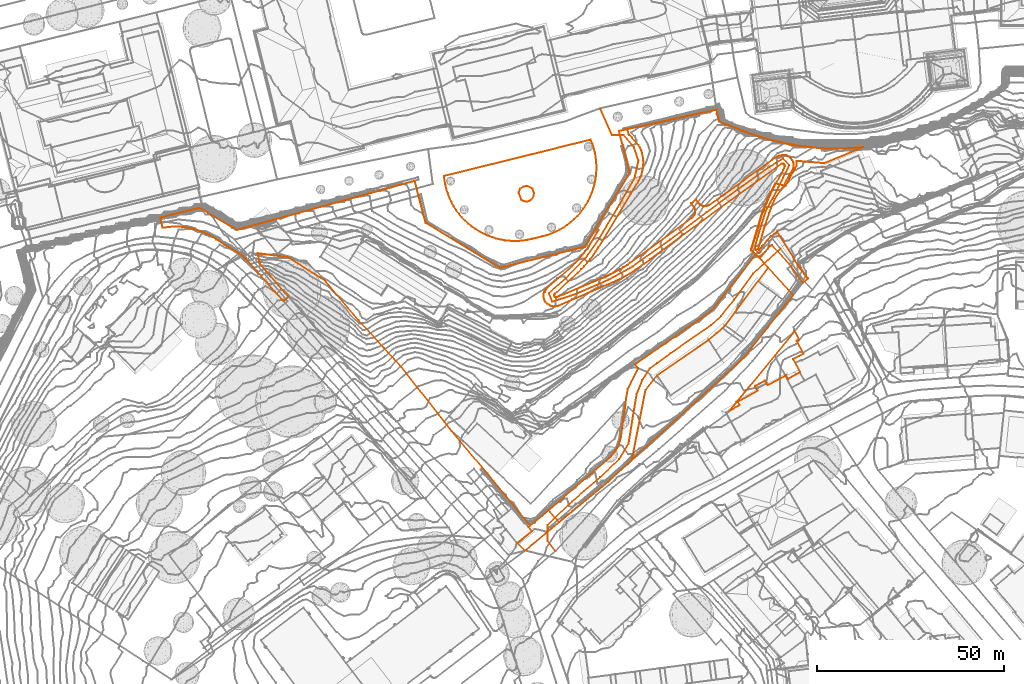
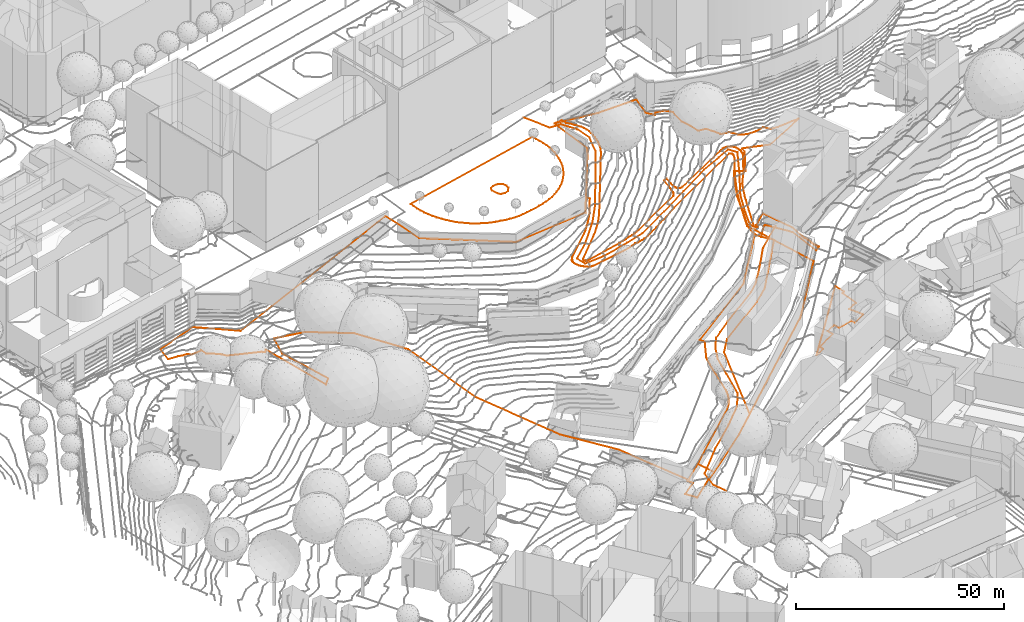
# Not in any storey, part 198 of 494: 8 proxies.
"""IFC2X3 model written with IfcOpenShell, lengths in metres."""

from ifc_helpers import new_model, entity, si_unit, frame, origin_with_axes, place, context, subcontext, project, element, save


model = new_model("IFC2X3")

# Units and contexts
model_context = context("Model", 3, precision=1e-05, world=origin_with_axes())
body_context = subcontext(model_context, "Body", "Model", "MODEL_VIEW")
ifc_project = project(units=[si_unit("AREAUNIT", "SQUARE_METRE"), si_unit("LENGTHUNIT", "METRE")], contexts=[model_context])

# Proxies
proxy_1_placement = place(None, frame((452.5207320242, 301.2667339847, 532.508), z_axis=(0.0, 0.0, 1.0), x_axis=(1.0, 0.0, 0.0)))
element("IfcBuildingElementProxy", 1, at=proxy_1_placement, Name="Road 8", ObjectType="NOTDEFINED", context=body_context, shape_type="GeometricCurveSet", body=[
    entity("IfcGeometricCurveSet", [entity("IfcPolyline", [entity("IfcCartesianPoint", [56.6480000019, 11.1579996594, -16.901]), entity("IfcCartesianPoint", [56.3820000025, 10.835999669, -16.901]), entity("IfcCartesianPoint", [56.2050000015, 10.6209996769, -16.901]), entity("IfcCartesianPoint", [55.4410000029, 11.43299965, -16.839]), entity("IfcCartesianPoint", [55.0990000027, 12.3319996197, -16.685]), entity("IfcCartesianPoint", [56.3300000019, 16.5729994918, -16.191]), entity("IfcCartesianPoint", [58.0030000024, 21.8799993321, -14.758]), entity("IfcCartesianPoint", [61.3800000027, 28.1939991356, -13.506]), entity("IfcCartesianPoint", [64.3170000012, 34.214998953, -12.061]), entity("IfcCartesianPoint", [62.7020000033, 35.9769989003, -11.76]), entity("IfcCartesianPoint", [58.5899999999, 33.4799989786, -11.19]), entity("IfcCartesianPoint", [51.8360000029, 28.6349991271, -9.361]), entity("IfcCartesianPoint", [42.143000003, 21.5869993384, -7.956]), entity("IfcCartesianPoint", [32.4520000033, 14.2439995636, -6.127]), entity("IfcCartesianPoint", [22.3200000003, 7.0489997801, -4.609]), entity("IfcCartesianPoint", [16.006000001, 3.5239998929, -3.102]), entity("IfcCartesianPoint", [7.1950000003, -0.2929999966, -1.635]), entity("IfcCartesianPoint", [0.881000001, -2.3499999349, -0.346]), entity("IfcCartesianPoint", [0.0, 0.0, 0.0]), entity("IfcCartesianPoint", [4.5520000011, 3.9649998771, 0.365]), entity("IfcCartesianPoint", [9.6910000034, 9.2519997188, 1.869]), entity("IfcCartesianPoint", [13.3619999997, 14.3899995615, 2.299]), entity("IfcCartesianPoint", [18.2080000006, 22.6139993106, 3.514]), entity("IfcCartesianPoint", [22.9070000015, 30.689999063, 4.88]), entity("IfcCartesianPoint", [23.9350000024, 35.3889989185, 5.664]), entity("IfcCartesianPoint", [22.7609999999, 39.0599988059, 6.257]), entity("IfcCartesianPoint", [19.949000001, 42.2949987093, 6.786]), entity("IfcCartesianPoint", [16.8800000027, 42.2949987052, 6.891]), entity("IfcCartesianPoint", [13.682, 49.3899984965, 6.685])])]),
])
proxy_2_placement = place(None, frame((452.1207320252, 234.928736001, 506.386), z_axis=(0.0, 0.0, 1.0), x_axis=(1.0, 0.0, 0.0)))
element("IfcBuildingElementProxy", 2, at=proxy_2_placement, Name="Road 170", ObjectType="NOTDEFINED", context=body_context, shape_type="GeometricCurveSet", body=[
    entity("IfcGeometricCurveSet", [entity("IfcPolyline", [entity("IfcCartesianPoint", [2.1620000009, -2.6789999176, -0.872]), entity("IfcCartesianPoint", [0.0, 0.0, 0.0]), entity("IfcCartesianPoint", [5e-10, 4.2339998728, 0.869]), entity("IfcCartesianPoint", [6.5670000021, 10.5369996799, 2.002]), entity("IfcCartesianPoint", [14.0560000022, 16.9979994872, 2.537]), entity("IfcCartesianPoint", [19.1959999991, 21.8449993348, 3.272]), entity("IfcCartesianPoint", [21.6920000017, 25.9559992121, 3.733]), entity("IfcCartesianPoint", [22.8669999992, 33.2979989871, 4.472]), entity("IfcCartesianPoint", [23.895, 39.3179988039, 4.96]), entity("IfcCartesianPoint", [25.3759999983, 43.0429986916, 5.415]), entity("IfcCartesianPoint", [27.3610000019, 46.0859985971, 5.732]), entity("IfcCartesianPoint", [29.3220000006, 47.5349985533, 5.834]), entity("IfcCartesianPoint", [32.9169999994, 50.1869984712, 6.023]), entity("IfcCartesianPoint", [43.7650000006, 57.726998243, 6.361]), entity("IfcCartesianPoint", [46.4109999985, 60.1089981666, 6.445]), entity("IfcCartesianPoint", [49.9820000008, 64.6059980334, 6.578]), entity("IfcCartesianPoint", [55.0340000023, 71.5399978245, 6.916]), entity("IfcCartesianPoint", [62.3460000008, 78.2149976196, 6.709])])]),
])
proxy_3_placement = place(None, frame((424.4467320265, 332.5677160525, 539.4183781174), z_axis=(0.0, 0.0, 1.0), x_axis=(1.0, 0.0, 0.0)))
element("IfcBuildingElementProxy", 3, at=proxy_3_placement, Name="Roads Outline 57", ObjectType="NOTDEFINED", context=body_context, shape_type="GeometricCurveSet", body=[
    entity("IfcGeometricCurveSet", [entity("IfcPolyline", [entity("IfcCartesianPoint", [0.0, 0.0, 0.0]), entity("IfcCartesianPoint", [39.2740000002, 9.713, -0.0045597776]), entity("IfcCartesianPoint", [39.7150000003, 8.5789999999, -0.0435130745]), entity("IfcCartesianPoint", [40.0820000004, 7.4199999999, -0.0755284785]), entity("IfcCartesianPoint", [40.375, 6.2389999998, -0.0744888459]), entity("IfcCartesianPoint", [40.591, 5.0419999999, -0.0718479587]), entity("IfcCartesianPoint", [40.73, 3.8339999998, 0.0097946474]), entity("IfcCartesianPoint", [40.7920000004, 2.6189999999, 0.0466417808]), entity("IfcCartesianPoint", [40.7750000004, 1.4029999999, 0.022346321]), entity("IfcCartesianPoint", [40.6810000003, 0.1899999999, -0.0875434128]), entity("IfcCartesianPoint", [40.5090000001, -1.0140000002, -0.1010078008]), entity("IfcCartesianPoint", [40.2600000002, -2.2050000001, -0.0472795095]), entity("IfcCartesianPoint", [39.9360000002, -3.3770000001, -0.0518511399]), entity("IfcCartesianPoint", [39.537, -4.5260000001, -0.0579178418]), entity("IfcCartesianPoint", [39.0650000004, -5.6470000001, -0.0194248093]), entity("IfcCartesianPoint", [38.523, -6.736, -0.0211341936]), entity("IfcCartesianPoint", [37.912, -7.7880000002, -0.0218287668]), entity("IfcCartesianPoint", [37.2350000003, -8.7980000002, -0.0328870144]), entity("IfcCartesianPoint", [36.4940000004, -9.763, -0.0262968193]), entity("IfcCartesianPoint", [35.6940000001, -10.679, -0.0425654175]), entity("IfcCartesianPoint", [34.8360000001, -11.5410000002, -0.0356918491]), entity("IfcCartesianPoint", [33.9250000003, -12.3470000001, -0.0149271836]), entity("IfcCartesianPoint", [32.9640000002, -13.0930000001, 0.0112943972]), entity("IfcCartesianPoint", [31.9570000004, -13.7750000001, 0.0247038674]), entity("IfcCartesianPoint", [30.909, -14.392, -0.0612446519]), entity("IfcCartesianPoint", [29.8230000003, -14.9400000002, -0.0017270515]), entity("IfcCartesianPoint", [28.7040000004, -15.4180000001, 0.0425044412]), entity("IfcCartesianPoint", [27.5580000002, -15.8230000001, 0.0329771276]), entity("IfcCartesianPoint", [26.3870000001, -16.1540000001, 0.0191743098]), entity("IfcCartesianPoint", [23.6660000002, -16.8150000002, 0.0214867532]), entity("IfcCartesianPoint", [22.4720000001, -17.0800000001, 0.0213547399]), entity("IfcCartesianPoint", [21.2630000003, -17.267, 0.0218737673]), entity("IfcCartesianPoint", [20.0450000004, -17.3770000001, -0.0107805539]), entity("IfcCartesianPoint", [18.8230000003, -17.4080000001, -0.0008671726]), entity("IfcCartesianPoint", [17.6010000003, -17.3600000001, 0.0042676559]), entity("IfcCartesianPoint", [16.3840000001, -17.2340000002, 0.0068673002]), entity("IfcCartesianPoint", [15.1780000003, -17.03, 0.0396822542]), entity("IfcCartesianPoint", [13.9880000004, -16.7490000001, 0.0047734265]), entity("IfcCartesianPoint", [12.818, -16.392, -0.0321487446]), entity("IfcCartesianPoint", [11.6740000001, -15.9610000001, -0.0428608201]), entity("IfcCartesianPoint", [10.5600000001, -15.4570000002, -0.0296490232]), entity("IfcCartesianPoint", [9.48, -14.882, -0.036921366]), entity("IfcCartesianPoint", [8.4400000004, -14.2390000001, -0.0601979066]), entity("IfcCartesianPoint", [7.443, -13.5310000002, -0.0514258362]), entity("IfcCartesianPoint", [6.4930000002, -12.76, -0.0228515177]), entity("IfcCartesianPoint", [5.5950000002, -11.9300000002, -0.0724719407]), entity("IfcCartesianPoint", [4.753, -11.0430000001, 0.0186784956]), entity("IfcCartesianPoint", [3.969, -10.105, 0.01955624]), entity("IfcCartesianPoint", [3.247, -9.1170000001, 0.0105898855]), entity("IfcCartesianPoint", [2.5900000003, -8.0860000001, 0.0273971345]), entity("IfcCartesianPoint", [2.0, -7.0140000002, -0.0117850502]), entity("IfcCartesianPoint", [1.4810000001, -5.9070000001, 0.0528604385]), entity("IfcCartesianPoint", [1.034, -4.7690000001, 0.0221340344]), entity("IfcCartesianPoint", [0.6610000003, -3.6040000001, 0.0180715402]), entity("IfcCartesianPoint", [0.3630000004, -2.4180000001, 0.0151391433]), entity("IfcCartesianPoint", [0.1430000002, -1.2150000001, 0.0081519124]), entity("IfcCartesianPoint", [0.0, 0.0, 0.0])])]),
])
proxy_4_placement = place(None, frame((444.0047320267, 234.3987160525, 506.9351353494), z_axis=(0.0, 0.0, 1.0), x_axis=(1.0, 0.0, 0.0)))
element("IfcBuildingElementProxy", 4, at=proxy_4_placement, Name="Roads Outline 93", ObjectType="NOTDEFINED", context=body_context, shape_type="GeometricCurveSet", body=[
    entity("IfcGeometricCurveSet", [entity("IfcPolyline", [entity("IfcCartesianPoint", [0.0, 0.0, 0.0]), entity("IfcCartesianPoint", [3.9550000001, 3.1629999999, -0.0307581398]), entity("IfcCartesianPoint", [3.0490000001, 4.26, 0.1611337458]), entity("IfcCartesianPoint", [3.5049999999, 4.6039999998, 0.1047028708]), entity("IfcCartesianPoint", [8.4550000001, 8.764, 0.5719090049]), entity("IfcCartesianPoint", [9.1850000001, 9.3899999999, 0.5929481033]), entity("IfcCartesianPoint", [24.5980000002, 22.6259999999, 2.652626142]), entity("IfcCartesianPoint", [25.21, 23.2509999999, 2.7109248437]), entity("IfcCartesianPoint", [25.77, 23.9239999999, 2.775616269]), entity("IfcCartesianPoint", [26.2719999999, 24.6409999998, 2.8605460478]), entity("IfcCartesianPoint", [26.7140000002, 25.3959999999, 2.9397775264]), entity("IfcCartesianPoint", [27.0929999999, 26.1849999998, 2.9962596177]), entity("IfcCartesianPoint", [27.406, 27.0019999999, 3.1508445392]), entity("IfcCartesianPoint", [27.6510000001, 27.8419999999, 3.3031284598]), entity("IfcCartesianPoint", [27.827, 28.6989999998, 3.3694165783]), entity("IfcCartesianPoint", [29.0430000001, 37.602, 4.2091110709]), entity("IfcCartesianPoint", [29.1910000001, 38.689, 4.3555372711]), entity("IfcCartesianPoint", [29.591, 41.1229999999, 4.5537559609]), entity("IfcCartesianPoint", [32.3790000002, 46.74, 5.0266992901]), entity("IfcCartesianPoint", [31.557, 47.7709999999, 5.1555257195]), entity("IfcCartesianPoint", [51.9339999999, 61.9589999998, 5.9585981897]), entity("IfcCartesianPoint", [63.827, 77.1639999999, 7.1703084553]), entity("IfcCartesianPoint", [64.3599999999, 76.7239999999, 6.7948441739]), entity("IfcCartesianPoint", [65.0150000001, 76.1819999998, 6.534303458]), entity("IfcCartesianPoint", [67.1710000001, 73.666, 6.4116579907]), entity("IfcCartesianPoint", [64.4270000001, 69.9669999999, 6.2782489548]), entity("IfcCartesianPoint", [55.4169999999, 57.8169999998, 5.9085776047]), entity("IfcCartesianPoint", [53.3509999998, 56.071, 5.675805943]), entity("IfcCartesianPoint", [51.2880000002, 54.328, 5.7067057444]), entity("IfcCartesianPoint", [51.1970000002, 54.2659999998, 5.70902126]), entity("IfcCartesianPoint", [37.4410000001, 44.8089999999, 5.1718862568]), entity("IfcCartesianPoint", [34.3509999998, 40.8459999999, 4.8868573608]), entity("IfcCartesianPoint", [30.7000000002, 22.1599999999, -0.6636134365]), entity("IfcCartesianPoint", [24.2820000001, 16.2949999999, -0.9184241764]), entity("IfcCartesianPoint", [11.9890000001, 6.1769999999, -0.8244341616]), entity("IfcCartesianPoint", [11.1839999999, 5.514, -0.8392498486]), entity("IfcCartesianPoint", [7.9950000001, 2.8429999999, -0.3437232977]), entity("IfcCartesianPoint", [2.0959999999, -2.0960000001, -0.4512191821]), entity("IfcCartesianPoint", [0.0, 0.0, 0.0])])]),
])
proxy_5_placement = place(None, frame((500.8287320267, 269.7407160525, 506.3617243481), z_axis=(0.0, 0.0, 1.0), x_axis=(1.0, 0.0, 0.0)))
element("IfcBuildingElementProxy", 5, at=proxy_5_placement, Name="Roads Outline 127", ObjectType="NOTDEFINED", context=body_context, shape_type="GeometricCurveSet", body=[
    entity("IfcGeometricCurveSet", [entity("IfcPolyline", [entity("IfcCartesianPoint", [0.0, 0.0, 0.0]), entity("IfcCartesianPoint", [12.1430000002, 14.797, 0.6289548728]), entity("IfcCartesianPoint", [17.4890000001, 21.3459999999, 1.2070523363]), entity("IfcCartesianPoint", [18.682, 19.1029999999, 0.4858708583]), entity("IfcCartesianPoint", [17.9840000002, 18.7319999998, 0.6013398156]), entity("IfcCartesianPoint", [19.8160000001, 15.2879999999, -0.8596442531]), entity("IfcCartesianPoint", [18.6770000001, 14.682, -0.7444421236]), entity("IfcCartesianPoint", [17.0839999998, 13.835, -0.8329642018]), entity("IfcCartesianPoint", [18.9449999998, 10.334, -0.926820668]), entity("IfcCartesianPoint", [15.6269999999, 8.517, -1.0169031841]), entity("IfcCartesianPoint", [15.1239999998, 9.4839999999, -0.9169735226]), entity("IfcCartesianPoint", [14.9559999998, 9.3929999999, -0.8786977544]), entity("IfcCartesianPoint", [10.2140000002, 6.824, 0.3817597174]), entity("IfcCartesianPoint", [9.5249999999, 8.074, 0.6364313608]), entity("IfcCartesianPoint", [6.835, 6.5989999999, 0.6259467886]), entity("IfcCartesianPoint", [7.551, 5.3399999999, 0.3304719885]), entity("IfcCartesianPoint", [2.2229999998, 2.4099999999, 0.1652694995]), entity("IfcCartesianPoint", [2.7310000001, 1.4919999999, -0.01792651]), entity("IfcCartesianPoint", [0.0, 0.0, 0.0])])]),
])
proxy_6_placement = place(None, frame((451.0627320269, 300.6077160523, 532.344853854), z_axis=(0.0, 0.0, 1.0), x_axis=(1.0, 0.0, 0.0)))
element("IfcBuildingElementProxy", 6, at=proxy_6_placement, Name="Roads Outline 137", ObjectType="NOTDEFINED", context=body_context, shape_type="GeometricCurveSet", body=[
    entity("IfcGeometricCurveSet", [entity("IfcPolyline", [entity("IfcCartesianPoint", [0.1579999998, 0.952, 0.0092594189]), entity("IfcCartesianPoint", [0.372, 0.8500000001, 0.0034604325]), entity("IfcCartesianPoint", [0.4589999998, 1.182, 0.0361574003]), entity("IfcCartesianPoint", [0.5979999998, 1.496, 0.0884358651]), entity("IfcCartesianPoint", [0.787, 1.7830000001, 0.1087660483]), entity("IfcCartesianPoint", [1.02, 2.0360000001, 0.091669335]), entity("IfcCartesianPoint", [7.4679999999, 7.6540000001, 1.1023663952]), entity("IfcCartesianPoint", [8.426, 8.5990000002, 1.3194146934]), entity("IfcCartesianPoint", [9.3449999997, 9.5820000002, 1.4940632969]), entity("IfcCartesianPoint", [10.2229999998, 10.601, 1.7030825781]), entity("IfcCartesianPoint", [11.1859999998, 11.8220000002, 1.9282145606]), entity("IfcCartesianPoint", [12.091, 13.0870000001, 2.168034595]), entity("IfcCartesianPoint", [14.7219999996, 17.4060000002, 2.9472054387]), entity("IfcCartesianPoint", [14.0099999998, 18.02, 3.3245718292]), entity("IfcCartesianPoint", [23.0419999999, 32.841, 5.3881047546]), entity("IfcCartesianPoint", [20.2219999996, 44.0120000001, 6.9616994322]), entity("IfcCartesianPoint", [22.4409999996, 44.4910000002, 6.8963017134]), entity("IfcCartesianPoint", [22.8599999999, 42.9360000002, 6.8672930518]), entity("IfcCartesianPoint", [23.6519999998, 42.226, 6.7490785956]), entity("IfcCartesianPoint", [24.392, 41.4620000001, 6.6382654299]), entity("IfcCartesianPoint", [24.9139999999, 40.8520000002, 6.5381969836]), entity("IfcCartesianPoint", [25.4029999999, 40.2140000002, 6.468987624]), entity("IfcCartesianPoint", [25.8569999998, 39.5520000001, 6.3707184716]), entity("IfcCartesianPoint", [26.1509999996, 38.8260000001, 6.2912083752]), entity("IfcCartesianPoint", [26.3869999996, 38.0800000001, 6.1588097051]), entity("IfcCartesianPoint", [26.5619999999, 37.317, 5.9569280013]), entity("IfcCartesianPoint", [26.676, 36.5420000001, 5.8046309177]), entity("IfcCartesianPoint", [26.7279999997, 35.7610000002, 5.6593209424]), entity("IfcCartesianPoint", [26.7119999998, 34.895, 5.4525778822]), entity("IfcCartesianPoint", [26.6189999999, 34.0330000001, 5.2914185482]), entity("IfcCartesianPoint", [26.4509999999, 33.1830000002, 5.1600183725]), entity("IfcCartesianPoint", [26.2079999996, 32.351, 5.0312722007]), entity("IfcCartesianPoint", [25.892, 31.544, 4.8806323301]), entity("IfcCartesianPoint", [25.5059999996, 30.7680000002, 4.757666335]), entity("IfcCartesianPoint", [23.3159999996, 27.0920000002, 4.2763765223]), entity("IfcCartesianPoint", [14.6239999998, 12.7250000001, 2.0283122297]), entity("IfcCartesianPoint", [13.9579999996, 11.682, 1.8244098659]), entity("IfcCartesianPoint", [13.2519999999, 10.6670000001, 1.6702525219]), entity("IfcCartesianPoint", [12.5049999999, 9.6800000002, 1.5507825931]), entity("IfcCartesianPoint", [11.7199999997, 8.7240000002, 1.4173134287]), entity("IfcCartesianPoint", [10.9269999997, 7.8320000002, 1.2438214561]), entity("IfcCartesianPoint", [10.1009999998, 6.9720000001, 0.9983842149]), entity("IfcCartesianPoint", [9.2419999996, 6.1430000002, 0.8824686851]), entity("IfcCartesianPoint", [3.074, 0.4550000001, -0.2127317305]), entity("IfcCartesianPoint", [2.9479999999, 0.3010000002, -0.2635257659]), entity("IfcCartesianPoint", [2.8829999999, 0.1130000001, -0.3284473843]), entity("IfcCartesianPoint", [2.8879999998, -0.0859999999, -0.3524937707]), entity("IfcCartesianPoint", [2.9619999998, -0.2709999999, -0.3714012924]), entity("IfcCartesianPoint", [3.0779999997, -0.4029999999, -0.3970207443]), entity("IfcCartesianPoint", [3.2289999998, -0.4929999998, -0.4297189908]), entity("IfcCartesianPoint", [3.3999999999, -0.5319999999, -0.4657297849]), entity("IfcCartesianPoint", [3.5749999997, -0.5159999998, -0.5021135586]), entity("IfcCartesianPoint", [15.5099999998, 4.5660000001, -2.5362907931]), entity("IfcCartesianPoint", [16.7389999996, 5.121, -2.7099482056]), entity("IfcCartesianPoint", [17.9569999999, 5.6980000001, -2.9481187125]), entity("IfcCartesianPoint", [19.2259999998, 6.3280000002, -3.0484743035]), entity("IfcCartesianPoint", [20.4819999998, 6.983, -3.4477442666]), entity("IfcCartesianPoint", [21.4139999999, 7.5320000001, -3.5923197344]), entity("IfcCartesianPoint", [22.3269999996, 8.1120000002, -3.7638247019]), entity("IfcCartesianPoint", [23.219, 8.7240000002, -3.9382991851]), entity("IfcCartesianPoint", [28.1339999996, 12.273, -4.7542871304]), entity("IfcCartesianPoint", [39.7409999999, 20.807, -7.0947559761]), entity("IfcCartesianPoint", [40.0049999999, 21.0320000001, -7.1601095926]), entity("IfcCartesianPoint", [40.2279999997, 21.297, -7.1746073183]), entity("IfcCartesianPoint", [40.4029999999, 21.5960000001, -7.1907662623]), entity("IfcCartesianPoint", [40.5279999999, 21.929, -7.2188201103]), entity("IfcCartesianPoint", [40.5949999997, 22.2790000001, -7.1389866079]), entity("IfcCartesianPoint", [40.5999999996, 22.6340000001, -6.9760760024]), entity("IfcCartesianPoint", [40.5439999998, 22.986, -6.7711049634]), entity("IfcCartesianPoint", [40.429, 23.3220000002, -6.4623985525]), entity("IfcCartesianPoint", [40.2569999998, 23.6340000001, -6.1049176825]), entity("IfcCartesianPoint", [39.537, 24.6470000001, -4.810469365]), entity("IfcCartesianPoint", [40.8329999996, 25.6700000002, -5.2587416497]), entity("IfcCartesianPoint", [41.483, 24.6900000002, -6.3821222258]), entity("IfcCartesianPoint", [41.7409999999, 24.412, -6.7583479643]), entity("IfcCartesianPoint", [42.0439999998, 24.1830000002, -7.1274100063]), entity("IfcCartesianPoint", [42.3819999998, 24.01, -7.4354290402]), entity("IfcCartesianPoint", [42.7449999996, 23.898, -7.6614107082]), entity("IfcCartesianPoint", [43.1399999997, 23.8500000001, -7.86111544]), entity("IfcCartesianPoint", [43.5359999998, 23.8740000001, -7.8903885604]), entity("IfcCartesianPoint", [43.9219999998, 23.9700000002, -7.9285490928]), entity("IfcCartesianPoint", [44.284, 24.1340000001, -7.9639429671]), entity("IfcCartesianPoint", [62.142, 36.9330000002, -11.476687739]), entity("IfcCartesianPoint", [62.585, 37.1630000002, -11.4604175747]), entity("IfcCartesianPoint", [63.048, 37.3520000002, -11.3922880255]), entity("IfcCartesianPoint", [63.415, 37.469, -11.3903862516]), entity("IfcCartesianPoint", [63.7889999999, 37.5580000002, -11.4138038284]), entity("IfcCartesianPoint", [64.159, 37.5800000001, -11.4669125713]), entity("IfcCartesianPoint", [64.5279999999, 37.5520000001, -11.4737450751]), entity("IfcCartesianPoint", [64.8909999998, 37.4740000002, -11.504032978]), entity("IfcCartesianPoint", [65.2389999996, 37.3470000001, -11.5395594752]), entity("IfcCartesianPoint", [65.6359999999, 37.1440000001, -11.5742211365]), entity("IfcCartesianPoint", [65.9979999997, 36.8830000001, -11.6238240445]), entity("IfcCartesianPoint", [66.3159999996, 36.571, -11.7354756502]), entity("IfcCartesianPoint", [66.5829999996, 36.2140000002, -11.8907107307]), entity("IfcCartesianPoint", [66.7929999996, 35.821, -11.9994817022]), entity("IfcCartesianPoint", [66.8659999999, 35.4810000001, -12.0559041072]), entity("IfcCartesianPoint", [66.9029999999, 35.135, -12.1130416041]), entity("IfcCartesianPoint", [66.9039999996, 34.787, -12.1826063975]), entity("IfcCartesianPoint", [66.861, 34.3820000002, -12.2584218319]), entity("IfcCartesianPoint", [66.77, 33.986, -12.3307330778]), entity("IfcCartesianPoint", [64.1829999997, 29.2140000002, -13.4960921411]), entity("IfcCartesianPoint", [61.8599999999, 25.7620000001, -14.1610872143]), entity("IfcCartesianPoint", [61.3649999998, 24.5900000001, -14.4603045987]), entity("IfcCartesianPoint", [60.8969999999, 23.4080000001, -14.6806566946]), entity("IfcCartesianPoint", [60.3989999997, 22.0350000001, -15.029632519]), entity("IfcCartesianPoint", [59.9219999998, 20.655, -15.3153385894]), entity("IfcCartesianPoint", [59.4139999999, 19.111, -15.5248313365]), entity("IfcCartesianPoint", [58.9309999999, 17.5590000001, -15.8327025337]), entity("IfcCartesianPoint", [57.503, 12.6740000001, -17.0381658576]), entity("IfcCartesianPoint", [57.4499999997, 12.388, -17.131150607]), entity("IfcCartesianPoint", [57.6979999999, 12.1660000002, -17.4277969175]), entity("IfcCartesianPoint", [58.4349999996, 13.1330000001, -17.5245292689]), entity("IfcCartesianPoint", [59.8059999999, 14.7110000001, -18.231701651]), entity("IfcCartesianPoint", [60.8569999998, 15.834, -18.3371087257]), entity("IfcCartesianPoint", [62.5329999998, 17.0330000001, -17.8849381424]), entity("IfcCartesianPoint", [66.8459999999, 10.2950000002, -19.5070420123]), entity("IfcCartesianPoint", [67.2599999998, 9.2520000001, -19.924798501]), entity("IfcCartesianPoint", [68.088, 8.0680000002, -20.9084779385]), entity("IfcCartesianPoint", [68.2779999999, 7.814, -21.1120105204]), entity("IfcCartesianPoint", [68.4729999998, 7.5550000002, -21.2787051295]), entity("IfcCartesianPoint", [68.6529999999, 7.3160000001, -21.3796090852]), entity("IfcCartesianPoint", [68.8589999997, 7.04, -21.4468309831]), entity("IfcCartesianPoint", [69.0409999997, 6.7980000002, -21.6017211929]), entity("IfcCartesianPoint", [69.21, 6.5720000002, -21.7433093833]), entity("IfcCartesianPoint", [69.412, 6.3030000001, -21.9434452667]), entity("IfcCartesianPoint", [69.591, 6.064, -22.1224231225]), entity("IfcCartesianPoint", [69.77, 5.827, -22.3490224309]), entity("IfcCartesianPoint", [69.9569999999, 5.5760000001, -22.5317040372]), entity("IfcCartesianPoint", [70.1289999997, 5.348, -22.6438578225]), entity("IfcCartesianPoint", [70.3169999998, 5.0970000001, -22.6752236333]), entity("IfcCartesianPoint", [70.5289999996, 4.814, -22.7817460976]), entity("IfcCartesianPoint", [70.7039999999, 4.581, -22.8592903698]), entity("IfcCartesianPoint", [70.8079999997, 4.4430000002, -22.89741996]), entity("IfcCartesianPoint", [69.4479999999, 3.4620000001, -22.9908939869]), entity("IfcCartesianPoint", [65.8159999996, 8.3380000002, -19.2799242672]), entity("IfcCartesianPoint", [61.148, 13.5140000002, -18.677630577]), entity("IfcCartesianPoint", [60.8589999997, 13.3690000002, -18.6744953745]), entity("IfcCartesianPoint", [60.605, 13.2250000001, -18.6814804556]), entity("IfcCartesianPoint", [60.4939999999, 13.1300000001, -18.6927562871]), entity("IfcCartesianPoint", [60.395, 13.023, -18.7045519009]), entity("IfcCartesianPoint", [58.9129999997, 11.1870000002, -18.7217713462]), entity("IfcCartesianPoint", [57.9569999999, 9.973, -18.8754150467]), entity("IfcCartesianPoint", [57.3019999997, 10.5150000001, -18.6148743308]), entity("IfcCartesianPoint", [56.7689999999, 10.9550000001, -18.2394100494]), entity("IfcCartesianPoint", [56.4609999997, 11.2100000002, -17.9043747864]), entity("IfcCartesianPoint", [55.5829999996, 11.976, -16.445857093]), entity("IfcCartesianPoint", [57.2519999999, 17.4990000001, -15.656994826]), entity("IfcCartesianPoint", [57.642, 18.9530000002, -15.3674454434]), entity("IfcCartesianPoint", [58.0759999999, 20.3940000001, -15.0895398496]), entity("IfcCartesianPoint", [58.554, 21.821, -14.8071615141]), entity("IfcCartesianPoint", [59.165, 23.4210000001, -14.5098932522]), entity("IfcCartesianPoint", [59.8199999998, 25.003, -14.1905812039]), entity("IfcCartesianPoint", [60.5159999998, 26.5680000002, -13.8237879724]), entity("IfcCartesianPoint", [61.412, 28.4300000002, -13.4085170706]), entity("IfcCartesianPoint", [62.3659999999, 30.263, -13.0186559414]), entity("IfcCartesianPoint", [64.1779999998, 33.5390000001, -12.2611845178]), entity("IfcCartesianPoint", [64.5859999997, 34.5700000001, -12.0646644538]), entity("IfcCartesianPoint", [64.5549999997, 34.74, -12.030075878]), entity("IfcCartesianPoint", [64.486, 34.898, -11.993752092]), entity("IfcCartesianPoint", [64.3819999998, 35.0360000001, -11.9556743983]), entity("IfcCartesianPoint", [64.2349999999, 35.1570000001, -11.9236795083]), entity("IfcCartesianPoint", [64.0629999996, 35.2370000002, -11.8855597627]), entity("IfcCartesianPoint", [63.8759999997, 35.2720000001, -11.8266457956]), entity("IfcCartesianPoint", [63.6859999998, 35.2580000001, -11.7729379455]), entity("IfcCartesianPoint", [37.591, 16.4040000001, -6.997098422]), entity("IfcCartesianPoint", [28.5819999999, 9.6590000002, -5.7523858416]), entity("IfcCartesianPoint", [26.7879999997, 8.3600000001, -5.2933233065]), entity("IfcCartesianPoint", [24.9679999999, 7.0970000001, -5.2616925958]), entity("IfcCartesianPoint", [23.1239999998, 5.8700000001, -4.6994669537]), entity("IfcCartesianPoint", [22.2609999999, 5.334, -4.4619918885]), entity("IfcCartesianPoint", [21.3729999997, 4.8390000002, -4.1773491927]), entity("IfcCartesianPoint", [20.4619999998, 4.3870000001, -4.1052361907]), entity("IfcCartesianPoint", [19.531, 3.9790000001, -3.6935804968]), entity("IfcCartesianPoint", [17.1679999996, 2.9100000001, -3.566628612]), entity("IfcCartesianPoint", [4.0929999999, -2.7359999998, -0.7829579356]), entity("IfcCartesianPoint", [3.6319999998, -2.8839999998, -0.7093285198]), entity("IfcCartesianPoint", [3.1539999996, -2.9549999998, -0.6232187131]), entity("IfcCartesianPoint", [2.6699999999, -2.9469999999, -0.4949473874]), entity("IfcCartesianPoint", [2.1939999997, -2.8599999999, -0.3571021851]), entity("IfcCartesianPoint", [1.7379999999, -2.6969999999, -0.2378095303]), entity("IfcCartesianPoint", [1.3149999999, -2.4619999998, -0.152793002]), entity("IfcCartesianPoint", [0.9359999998, -2.1609999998, -0.090757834]), entity("IfcCartesianPoint", [0.611, -1.8019999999, -0.0295948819]), entity("IfcCartesianPoint", [0.3489999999, -1.3959999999, -0.0012709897]), entity("IfcCartesianPoint", [0.1569999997, -0.9509999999, -0.0190975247]), entity("IfcCartesianPoint", [0.04, -0.4819999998, -0.0065431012]), entity("IfcCartesianPoint", [0.0, 0.0, 0.0]), entity("IfcCartesianPoint", [0.04, 0.483, 0.0078540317]), entity("IfcCartesianPoint", [0.1579999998, 0.952, 0.0092594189])])]),
])
proxy_7_placement = place(None, frame((348.5607320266, 321.4607160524, 530.0937704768), z_axis=(0.0, 0.0, 1.0), x_axis=(1.0, 0.0, 0.0)))
element("IfcBuildingElementProxy", 7, at=proxy_7_placement, Name="Cadastre 38", ObjectType="NOTDEFINED", context=body_context, shape_type="GeometricCurveSet", body=[
    entity("IfcGeometricCurveSet", [entity("IfcPolyline", [entity("IfcCartesianPoint", [0.0, 0.0, 0.0]), entity("IfcCartesianPoint", [10.4360000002, 2.5530000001, 1.2569342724]), entity("IfcCartesianPoint", [20.375, -3.3470000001, 0.2654229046]), entity("IfcCartesianPoint", [68.0690000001, 9.784, 9.2780797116]), entity("IfcCartesianPoint", [69.0390000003, 5.834, 9.1659825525]), entity("IfcCartesianPoint", [70.9840000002, -1.456, 8.6262380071]), entity("IfcCartesianPoint", [90.8370000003, -13.496, 7.8312685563]), entity("IfcCartesianPoint", [113.4450000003, -7.8640000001, 5.1824496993]), entity("IfcCartesianPoint", [125.5440000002, 11.9879999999, 7.6391881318]), entity("IfcCartesianPoint", [122.7239999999, 23.159, 9.2127828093]), entity("IfcCartesianPoint", [136.5830000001, 26.1499999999, 5.6585209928]), entity("IfcCartesianPoint", [148.8110000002, 28.841, 3.6911593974]), entity("IfcCartesianPoint", [149.5210000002, 25.6259999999, 1.4891401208]), entity("IfcCartesianPoint", [151.5610000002, 24.6810000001, 0.6396457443]), entity("IfcCartesianPoint", [151.6310000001, 24.861, 1.2462101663]), entity("IfcCartesianPoint", [153.6340000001, 24.003, 1.6516147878]), entity("IfcCartesianPoint", [155.659, 23.2, 0.9837421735]), entity("IfcCartesianPoint", [157.7050000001, 22.453, -2.0211282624]), entity("IfcCartesianPoint", [159.7710000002, 21.7609999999, -3.6629680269]), entity("IfcCartesianPoint", [161.5100000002, 21.21, -5.3402328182]), entity("IfcCartesianPoint", [163.267, 20.723, -5.0879443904]), entity("IfcCartesianPoint", [165.0420000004, 20.3, -6.1078874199]), entity("IfcCartesianPoint", [166.8300000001, 19.942, -7.3005214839]), entity("IfcCartesianPoint", [166.8200000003, 19.8119999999, -7.3617971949]), entity("IfcCartesianPoint", [169.108, 19.422, -7.3187053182]), entity("IfcCartesianPoint", [171.4050000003, 19.085, -8.6153820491]), entity("IfcCartesianPoint", [173.7090000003, 18.8019999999, -9.1555587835]), entity("IfcCartesianPoint", [176.0190000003, 18.5719999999, -8.9383991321]), entity("IfcCartesianPoint", [178.0279999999, 18.469, -8.3552863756]), entity("IfcCartesianPoint", [180.0390000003, 18.4239999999, -9.6026405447]), entity("IfcCartesianPoint", [182.0500000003, 18.4369999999, -9.6846526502]), entity("IfcCartesianPoint", [184.0600000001, 18.507, -9.6295527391]), entity("IfcCartesianPoint", [186.0670000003, 18.635, -9.5163623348]), entity("IfcCartesianPoint", [188.0700000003, 18.8200000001, -9.6263216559]), entity("IfcCartesianPoint", [177.6130000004, 14.517, -10.9535856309]), entity("IfcCartesianPoint", [170.1850000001, 15.132, -9.8366411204]), entity("IfcCartesianPoint", [170.1850000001, 13.807, -10.0382283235]), entity("IfcCartesianPoint", [169.5160000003, 12.5900000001, -10.3537200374]), entity("IfcCartesianPoint", [167.2740000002, 8.4280000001, -11.3960044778]), entity("IfcCartesianPoint", [164.4760000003, 9.111, -10.8081585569]), entity("IfcCartesianPoint", [163.281, 6.851, -11.2940944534]), entity("IfcCartesianPoint", [161.1010000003, 1.6599999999, -12.4396063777]), entity("IfcCartesianPoint", [158.0410000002, -8.4210000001, -14.0802249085]), entity("IfcCartesianPoint", [169.3510000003, -20.7209999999, -20.9286257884]), entity("IfcCartesianPoint", [156.0320000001, -37.5830000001, -22.3435951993]), entity("IfcCartesianPoint", [119.7260000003, -70.767, -24.0770593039]), entity("IfcCartesianPoint", [106.628, -81.548, -23.9978849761]), entity("IfcCartesianPoint", [103.8990000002, -78.298, -22.5867261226]), entity("IfcCartesianPoint", [98.949, -82.4580000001, -23.0539322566]), entity("IfcCartesianPoint", [87.5600000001, -68.558, -18.5778495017]), entity("IfcCartesianPoint", [77.9610000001, -57.1880000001, -17.6874939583]), entity("IfcCartesianPoint", [64.432, -39.8670000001, -12.4797629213]), entity("IfcCartesianPoint", [59.8820000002, -34.9469999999, -8.2992285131]), entity("IfcCartesianPoint", [52.9820000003, -27.4169999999, -1.9514518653]), entity("IfcCartesianPoint", [44.0530000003, -16.9169999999, -0.5202767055]), entity("IfcCartesianPoint", [34.014, -10.642, -0.4242441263]), entity("IfcCartesianPoint", [25.9850000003, -9.5870000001, -0.1419525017]), entity("IfcCartesianPoint", [26.6750000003, -12.3970000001, -3.1464876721]), entity("IfcCartesianPoint", [34.2760000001, -21.2290000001, -7.7146522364]), entity("IfcCartesianPoint", [33.0060000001, -22.439, -8.3648272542]), entity("IfcCartesianPoint", [22.8670000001, -10.9850000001, -1.4420838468]), entity("IfcCartesianPoint", [22.7170000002, -11.0970000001, -2.0263431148]), entity("IfcCartesianPoint", [22.145, -10.379, -2.2524968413]), entity("IfcCartesianPoint", [14.9560000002, -5.8689999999, -3.5808979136]), entity("IfcCartesianPoint", [13.926, -5.2180000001, -3.2484448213]), entity("IfcCartesianPoint", [12.858, -4.6310000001, -3.1148173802]), entity("IfcCartesianPoint", [11.7560000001, -4.1100000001, -2.9101385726]), entity("IfcCartesianPoint", [10.625, -3.656, -2.7960591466]), entity("IfcCartesianPoint", [9.469, -3.2720000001, -1.6831860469]), entity("IfcCartesianPoint", [8.2960000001, -2.959, -2.0863801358]), entity("IfcCartesianPoint", [7.105, -2.7180000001, -2.3942273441]), entity("IfcCartesianPoint", [5.9029999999, -2.5490000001, -2.0135224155]), entity("IfcCartesianPoint", [4.6920000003, -2.453, -1.9817480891]), entity("IfcCartesianPoint", [3.4780000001, -2.4299999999, -1.8361862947]), entity("IfcCartesianPoint", [0.5470000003, -2.76, -1.4543124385]), entity("IfcCartesianPoint", [0.0, 0.0, 0.0])])]),
])
proxy_8_placement = place(None, frame((444.4500045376, 328.1707160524, 539.0), z_axis=(0.0, 0.0, 1.0), x_axis=(1.0, 0.0, 0.0)))
element("IfcBuildingElementProxy", 8, at=proxy_8_placement, Name="Contour Line 539.0 m", ObjectType="NOTDEFINED", context=body_context, shape_type="GeometricCurveSet", body=[
    entity("IfcGeometricCurveSet", [entity("IfcPolyline", [entity("IfcCartesianPoint", [3.2277274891, -2.0854981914, 0.0]), entity("IfcCartesianPoint", [4.0159114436, -1.0, 0.0]), entity("IfcCartesianPoint", [4.0431121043, 0.0, 0.0]), entity("IfcCartesianPoint", [3.6492471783, 1.0, 0.0]), entity("IfcCartesianPoint", [2.2277274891, 1.7034358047, 0.0]), entity("IfcCartesianPoint", [1.2277274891, 1.5493506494, 0.0]), entity("IfcCartesianPoint", [0.320002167, 1.0, 0.0]), entity("IfcCartesianPoint", [0.0, 0.0, 0.0]), entity("IfcCartesianPoint", [0.7249952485, -2.0, 0.0]), entity("IfcCartesianPoint", [1.2277274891, -2.3483648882, 0.0]), entity("IfcCartesianPoint", [2.2277274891, -2.4492814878, 0.0]), entity("IfcCartesianPoint", [3.2277274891, -2.0854981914, 0.0])])]),
])

save(model, "model.ifc")
